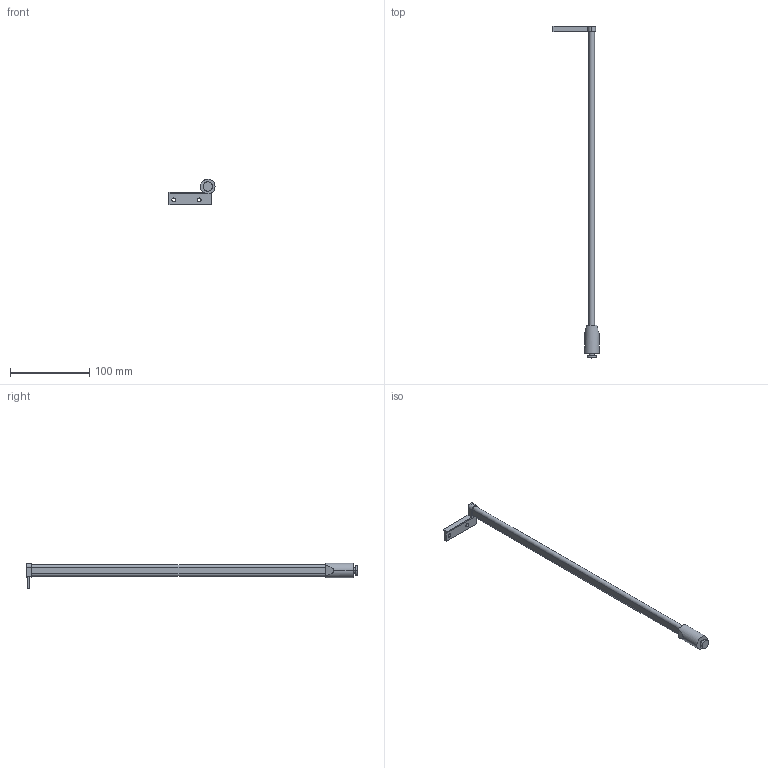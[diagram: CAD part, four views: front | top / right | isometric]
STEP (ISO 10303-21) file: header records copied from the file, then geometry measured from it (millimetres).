
FILE_DESCRIPTION (( 'STEP AP214' ), '1' );
FILE_NAME ('DWD-XP_Reling-Haengeregister_NL425_rechts.step', '2010-10-06T11:19:34', ( 'grass' ), ( '' ), 'SwSTEP 2.0', 'SolidWorks 2010', '' );
FILE_SCHEMA (( 'AUTOMOTIVE_DESIGN' ));
Length unit declared in the file: millimetre
Products named in the file (1): DWD-XP_Reling-Haengeregister_NL425_rechts
Bounding box: 58.1 x 419.3 x 32.15 mm (x, y, z)
Volume: 48237.1 mm3; surface area: 19784.1 mm2
Topology: 1 solids, 1 shells, 34 faces, 84 edges, 56 vertices
Faces by surface type: plane 20, cylinder 14
Entity records: 1058 total; most frequent: CARTESIAN_POINT 187, DIRECTION 178, ORIENTED_EDGE 168, EDGE_CURVE 84, AXIS2_PLACEMENT_3D 63, VERTEX_POINT 56, VECTOR 52, LINE 52
